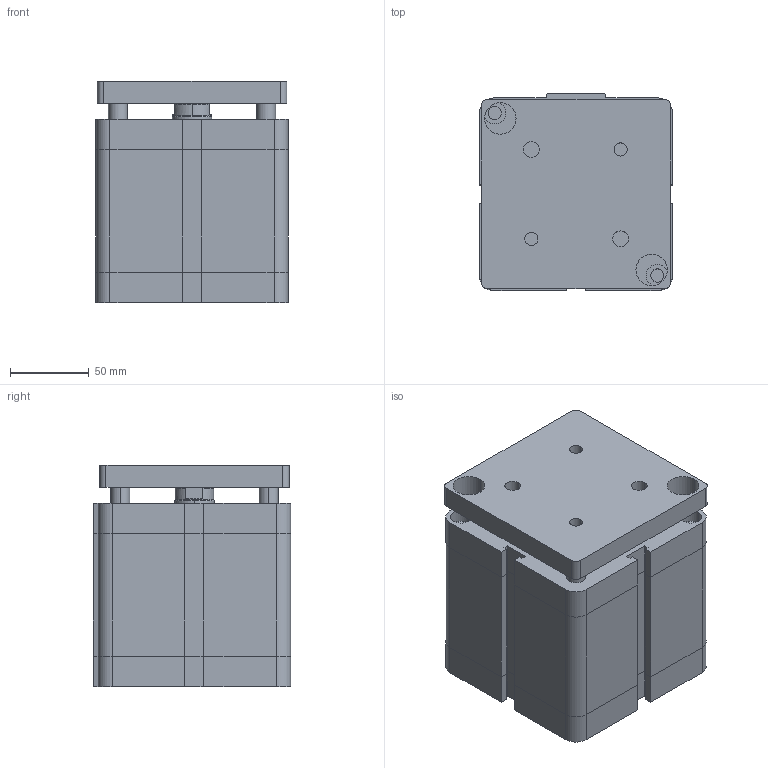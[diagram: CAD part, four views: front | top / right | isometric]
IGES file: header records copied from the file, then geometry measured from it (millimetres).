
Global section: file name: No Iges File Name specified; native system: Autodesk Inventor 2009; preprocessor: AutoDesk Inventor Iges Exporter R2009; author: maffial1; date: 20090420.201425; units: millimetre
Bounding box: 122 x 125 x 140.5 mm (x, y, z)
Volume: 1896592.3 mm3; surface area: 154452.8 mm2
Topology: 2 solids, 2 shells, 212 faces, 486 edges, 298 vertices
Faces by surface type: plane 111, bspline 67, cylinder 26, cone 8
